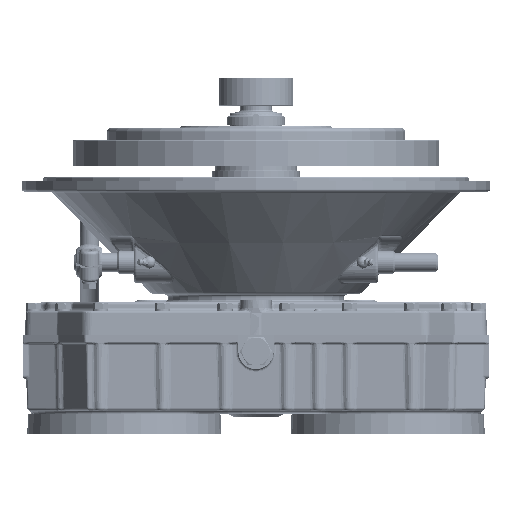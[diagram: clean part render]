
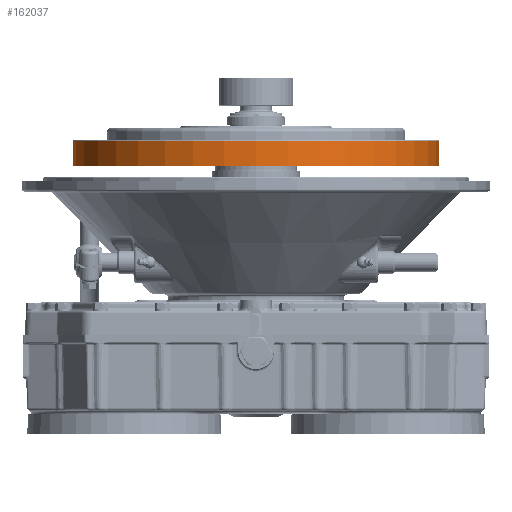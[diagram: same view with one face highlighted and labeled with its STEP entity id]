
A CAD part, front view. The second image highlights one B-rep face of the part: STEP entity #162037.
In plain terms, the highlighted cylindrical face has radius 176.21 mm (diameter 352.42 mm), a partial arc.
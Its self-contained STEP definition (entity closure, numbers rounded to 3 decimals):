
#88544 = CARTESIAN_POINT ( 'NONE',  ( 176.21, 0., 15.1 ) ) ;
#90105 = CARTESIAN_POINT ( 'NONE',  ( 176.21, 0., 39.1 ) ) ;
#90233 = CARTESIAN_POINT ( 'NONE',  ( -176.21, 0., 39.1 ) ) ;
#90891 = CARTESIAN_POINT ( 'NONE',  ( -176.21, 0., 15.1 ) ) ;
#92894 = DIRECTION ( 'NONE',  ( 0., 0., 1. ) ) ;
#92895 = VECTOR ( 'NONE', #92894, 1000. ) ;
#92898 = CARTESIAN_POINT ( 'NONE',  ( -176.21, 0., 14.6 ) ) ;
#92900 = LINE ( 'NONE', #92898, #92895 ) ;
#93229 = DIRECTION ( 'NONE',  ( 0., 0., 1. ) ) ;
#93230 = VECTOR ( 'NONE', #93229, 1000. ) ;
#93234 = CARTESIAN_POINT ( 'NONE',  ( 176.21, 0., 14.6 ) ) ;
#93236 = LINE ( 'NONE', #93234, #93230 ) ;
#93399 = FACE_OUTER_BOUND ( 'NONE', #162047, .T. ) ;
#93685 = DIRECTION ( 'NONE',  ( 1., 0., 0. ) ) ;
#93690 = DIRECTION ( 'NONE',  ( 0., 0., 1. ) ) ;
#93694 = AXIS2_PLACEMENT_3D ( 'NONE', #93711, #93690, #93685 ) ;
#93697 = CYLINDRICAL_SURFACE ( 'NONE', #93694, 176.21 ) ;
#93711 = CARTESIAN_POINT ( 'NONE',  ( 0., 0., 14.6 ) ) ;
#93820 = DIRECTION ( 'NONE',  ( 1., 0., 0. ) ) ;
#93823 = DIRECTION ( 'NONE',  ( 0., 0., 1. ) ) ;
#93825 = CARTESIAN_POINT ( 'NONE',  ( 0., 0., 15.1 ) ) ;
#93827 = AXIS2_PLACEMENT_3D ( 'NONE', #93825, #93823, #93820 ) ;
#93831 = CIRCLE ( 'NONE', #93827, 176.21 ) ;
#94844 = DIRECTION ( 'NONE',  ( 1., 0., 0. ) ) ;
#94846 = DIRECTION ( 'NONE',  ( 0., 0., -1. ) ) ;
#94850 = CARTESIAN_POINT ( 'NONE',  ( 0., 0., 39.1 ) ) ;
#94852 = AXIS2_PLACEMENT_3D ( 'NONE', #94850, #94846, #94844 ) ;
#94854 = CIRCLE ( 'NONE', #94852, 176.21 ) ;
#161457 = VERTEX_POINT ( 'NONE', #88544 ) ;
#161651 = VERTEX_POINT ( 'NONE', #90105 ) ;
#161674 = VERTEX_POINT ( 'NONE', #90233 ) ;
#161778 = VERTEX_POINT ( 'NONE', #90891 ) ;
#162006 = EDGE_CURVE ( 'NONE', #161778, #161674, #92900, .T. ) ;
#162026 = EDGE_CURVE ( 'NONE', #161457, #161651, #93236, .T. ) ;
#162037 = ADVANCED_FACE ( 'NONE', ( #93399 ), #93697, .T. ) ;
#162047 = EDGE_LOOP ( 'NONE', ( #162054, #162063, #162084, #162213 ) ) ;
#162054 = ORIENTED_EDGE ( 'NONE', *, *, #162006, .F. ) ;
#162063 = ORIENTED_EDGE ( 'NONE', *, *, #162067, .T. ) ;
#162067 = EDGE_CURVE ( 'NONE', #161778, #161457, #93831, .T. ) ;
#162084 = ORIENTED_EDGE ( 'NONE', *, *, #162026, .T. ) ;
#162213 = ORIENTED_EDGE ( 'NONE', *, *, #162217, .T. ) ;
#162217 = EDGE_CURVE ( 'NONE', #161651, #161674, #94854, .T. ) ;
